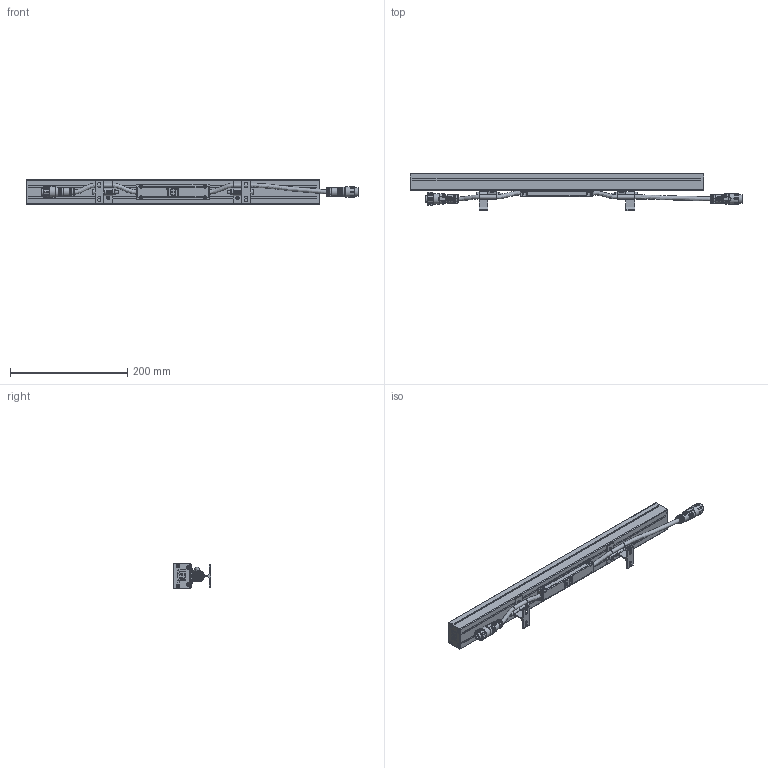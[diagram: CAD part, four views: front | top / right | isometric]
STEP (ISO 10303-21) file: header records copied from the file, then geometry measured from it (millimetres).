
FILE_DESCRIPTION (( 'STEP AP214' ), '1' );
FILE_NAME ('Linear G36 - L500 12 LEDs.STEP', '2025-08-21T12:28:14', ( '' ), ( '' ), 'SwSTEP 2.0', 'SolidWorks 2025', '' );
FILE_SCHEMA (( 'AUTOMOTIVE_DESIGN' ));
Length unit declared in the file: millimetre
Products named in the file (7): Linear G36 - Bracket bottom; M16 5p Male; M16 5p Female; Linear G36 - L500 12 LEDs; Linear G36 - Body_L500, 12 LEDs; Linear G36 - Bracket topside; Part23^Linear G36_L500
Assembly tree (8 placements, depth 2):
  Linear G36 - L500 12 LEDs
    Linear G36 - Body_L500, 12 LEDs
    Linear G36 - Bracket bottom  x2
    Linear G36 - Bracket topside  x2
    M16 5p Male
    M16 5p Female
    Part23^Linear G36_L500
Bounding box: 565.3 x 63.5 x 42 mm (x, y, z)
Volume: 655152.1 mm3; surface area: 125465.3 mm2
Topology: 18 solids, 31 shells, 1951 faces, 4575 edges, 2688 vertices
Faces by surface type: plane 745, cylinder 561, bspline 228, cone 214, torus 181, sphere 22
Full cylindrical faces by diameter (mm): 2.7 x4, 7 x2, 9.2 x1, 11.1 x1, 14.25 x1, 14.3 x1, 18 x1, 19 x12
Entity records: 71298 total; most frequent: CARTESIAN_POINT 24551, ORIENTED_EDGE 8020, DIRECTION 7671, EDGE_CURVE 4010, AXIS2_PLACEMENT_3D 2982, VERTEX_POINT 2437, EDGE_LOOP 1963, FACE_OUTER_BOUND 1799
